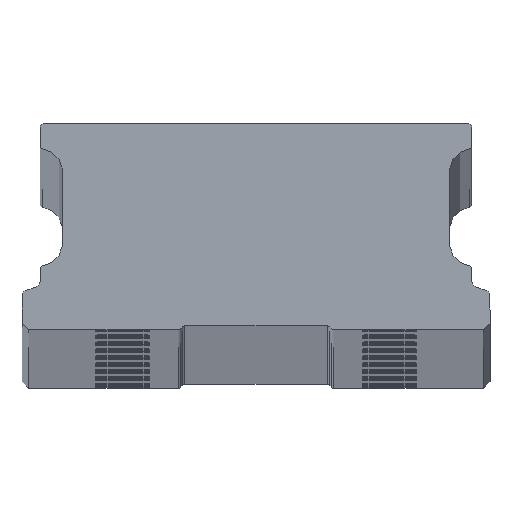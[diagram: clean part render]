
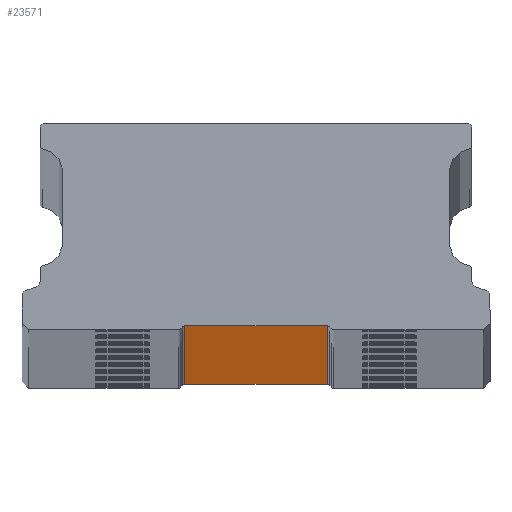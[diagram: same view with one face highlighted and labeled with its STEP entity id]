
A CAD part, top view. The second image highlights one B-rep face of the part: STEP entity #23571.
In plain terms, the highlighted planar face has unit normal (0, -1, 0).
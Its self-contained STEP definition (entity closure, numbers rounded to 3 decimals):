
#540 = DIRECTION ( 'NONE',  ( 0., 0., -1. ) ) ;
#552 = CARTESIAN_POINT ( 'NONE',  ( 6.376, 0.35, 3000. ) ) ;
#1704 = FACE_OUTER_BOUND ( 'NONE', #15406, .T. ) ;
#7440 = CARTESIAN_POINT ( 'NONE',  ( -6.376, 0.35, 0. ) ) ;
#7483 = CARTESIAN_POINT ( 'NONE',  ( -6.376, 0.35, 3000. ) ) ;
#7512 = CARTESIAN_POINT ( 'NONE',  ( 6.376, 0.35, 3000. ) ) ;
#7596 = CARTESIAN_POINT ( 'NONE',  ( 6.376, 0.35, 0. ) ) ;
#8029 = ORIENTED_EDGE ( 'NONE', *, *, #9842, .F. ) ;
#8288 = ORIENTED_EDGE ( 'NONE', *, *, #9762, .T. ) ;
#8478 = ORIENTED_EDGE ( 'NONE', *, *, #9999, .T. ) ;
#8482 = ORIENTED_EDGE ( 'NONE', *, *, #10032, .F. ) ;
#9762 = EDGE_CURVE ( 'NONE', #25524, #25481, #26587, .T. ) ;
#9842 = EDGE_CURVE ( 'NONE', #25524, #25554, #17099, .T. ) ;
#9999 = EDGE_CURVE ( 'NONE', #25481, #25639, #17312, .T. ) ;
#10032 = EDGE_CURVE ( 'NONE', #25554, #25639, #17363, .T. ) ;
#10075 = CARTESIAN_POINT ( 'NONE',  ( -6.376, 0.35, 3000. ) ) ;
#13853 = DIRECTION ( 'NONE',  ( 1., 0., 0. ) ) ;
#13854 = CARTESIAN_POINT ( 'NONE',  ( -6.376, 0.35, 3000. ) ) ;
#15406 = EDGE_LOOP ( 'NONE', ( #8478, #8482, #8029, #8288 ) ) ;
#17099 = LINE ( 'NONE', #13854, #17100 ) ;
#17100 = VECTOR ( 'NONE', #13853, 1000. ) ;
#17312 = LINE ( 'NONE', #23611, #17313 ) ;
#17313 = VECTOR ( 'NONE', #23600, 1000. ) ;
#17359 = VECTOR ( 'NONE', #540, 1000. ) ;
#17363 = LINE ( 'NONE', #552, #17359 ) ;
#21544 = CARTESIAN_POINT ( 'NONE',  ( -6.376, 0.35, 3000. ) ) ;
#21545 = PLANE ( 'NONE',  #22072 ) ;
#21547 = DIRECTION ( 'NONE',  ( 0., 1., 0. ) ) ;
#21548 = DIRECTION ( 'NONE',  ( 0., 0., 1. ) ) ;
#22072 = AXIS2_PLACEMENT_3D ( 'NONE', #21544, #21547, #21548 ) ;
#23472 = DIRECTION ( 'NONE',  ( 0., 0., -1. ) ) ;
#23571 = ADVANCED_FACE ( 'NONE', ( #1704 ), #21545, .F. ) ;
#23600 = DIRECTION ( 'NONE',  ( 1., 0., 0. ) ) ;
#23611 = CARTESIAN_POINT ( 'NONE',  ( -6.376, 0.35, 0. ) ) ;
#25481 = VERTEX_POINT ( 'NONE', #7440 ) ;
#25524 = VERTEX_POINT ( 'NONE', #7483 ) ;
#25554 = VERTEX_POINT ( 'NONE', #7512 ) ;
#25639 = VERTEX_POINT ( 'NONE', #7596 ) ;
#26574 = VECTOR ( 'NONE', #23472, 1000. ) ;
#26587 = LINE ( 'NONE', #10075, #26574 ) ;
